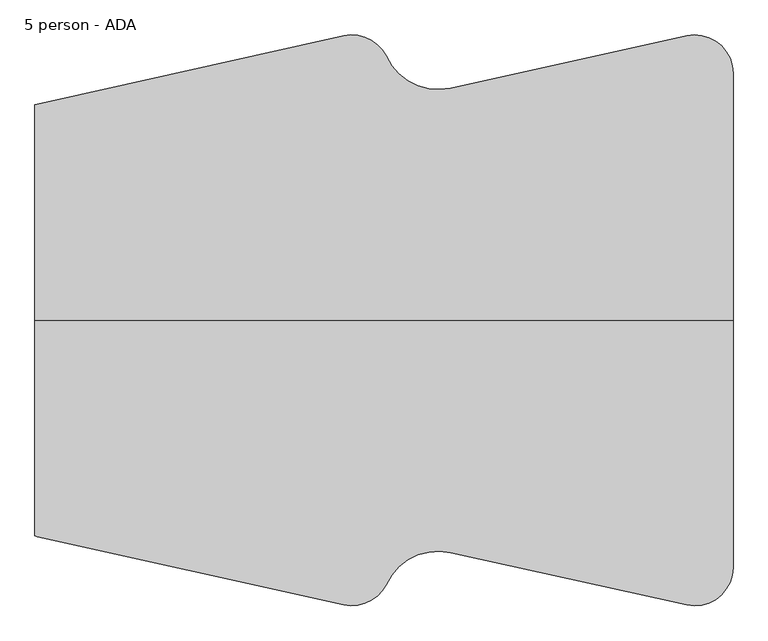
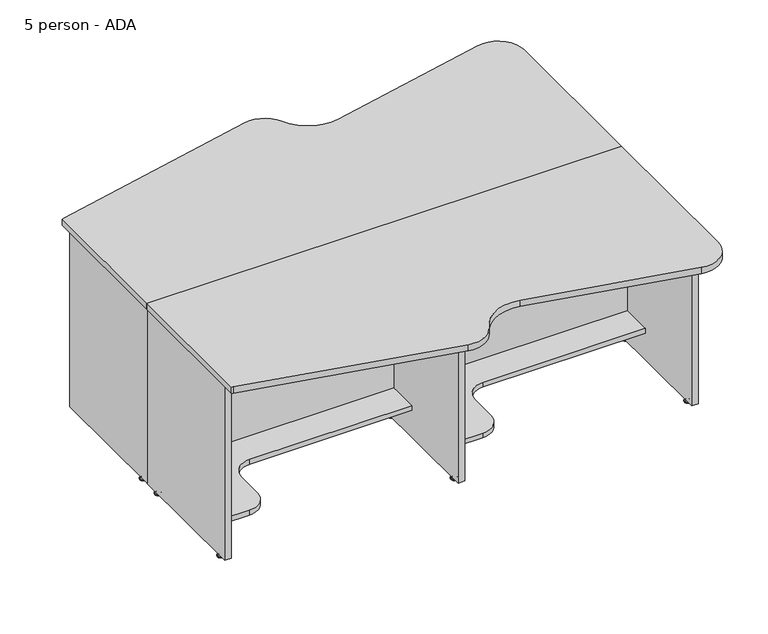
"""IFC4 building model written with IfcOpenShell, lengths in millimetres: furniture geometry, Nova Solutions - Collaboration Table - Keystone_4-5 person : 5 person - ADA."""

from ifc_helpers import new_model, si_unit, point, frame, frame_2d, origin, place, context, project, spatial, polyline, circle_curve, ellipse_curve, trimmed, segment, composite_curve, outline, extrude, source, transform, mapped, element, save
from ifc_brep_helpers import plane_surface, cylinder_surface, revolved_surface, advanced_brep


def furniture_5_person_ada_08185c7c(model_context):
    return source(origin(), model_context, "Body", "SolidModel", [
        advanced_brep(
        [(-922.3776506, 50.3590625, 11.1125), (-909.0223494, 50.3590625, 11.1125), (-915.7, 50.3590625, 11.1125), (-922.3776506, 50.3590625, 9.525), (-909.0223494, 50.3590625, 9.525), (-927.5855135, 50.3590625, 4.7748687), (-903.8144865, 50.3590625, 4.7748687), (-928.4466506, 50.3590625, 3.989419), (-902.9533494, 50.3590625, 3.989419), (-928.4466506, 50.3590625, 3.175), (-902.9533494, 50.3590625, 3.175), (-927.5959119, 50.3590625, 0.0), (-903.8040881, 50.3590625, 0.0), (-915.7, 50.3590625, 0.0)],
        [
            (0, 1, circle_curve(frame((-915.7, 50.3590625, 11.1125), z_axis=(0.0, 0.0, 1.0), x_axis=(1.0, 0.0, 0.0)), 6.6776506)),
            (1, 2),
            (2, 0),
            (1, 0, circle_curve(frame((-915.7, 50.3590625, 11.1125), z_axis=(0.0, 0.0, 1.0), x_axis=(1.0, 0.0, 0.0)), 6.6776506)),
            (3, 4, circle_curve(frame((-915.7, 50.3590625, 9.525), z_axis=(0.0, 0.0, 1.0), x_axis=(1.0, 0.0, 0.0)), 6.6776506)),
            (4, 1),
            (0, 3),
            (4, 3, circle_curve(frame((-915.7, 50.3590625, 9.525), z_axis=(0.0, 0.0, 1.0), x_axis=(1.0, 0.0, 0.0)), 6.6776506)),
            (5, 6, circle_curve(frame((-915.7, 50.3590625, 4.7748687), z_axis=(0.0, 0.0, 1.0), x_axis=(1.0, 0.0, 0.0)), 11.8855135)),
            (6, 4, circle_curve(frame((-902.7679373, 50.3590625, 11.1521822), z_axis=(0.0, 1.0, 0.0), x_axis=(-1.0, 0.0, 0.0)), 6.462615)),
            (3, 5, circle_curve(frame((-928.6320627, 50.3590625, 11.1521822), z_axis=(0.0, 1.0, 0.0), x_axis=(1.0, 0.0, 0.0)), 6.462615)),
            (6, 5, circle_curve(frame((-915.7, 50.3590625, 4.7748687), z_axis=(0.0, 0.0, 1.0), x_axis=(1.0, 0.0, 0.0)), 11.8855135)),
            (7, 8, circle_curve(frame((-915.7, 50.3590625, 3.989419), z_axis=(0.0, 0.0, 1.0), x_axis=(1.0, 0.0, 0.0)), 12.7466506)),
            (8, 6, circle_curve(frame((-903.9875368, 50.3590625, 3.7203591), z_axis=(0.0, -1.0, 0.0), x_axis=(-1.0, 0.0, 0.0)), 1.0686145)),
            (5, 7, circle_curve(frame((-927.4124632, 50.3590625, 3.7203591), z_axis=(0.0, -1.0, 0.0), x_axis=(1.0, 0.0, 0.0)), 1.0686145)),
            (8, 7, circle_curve(frame((-915.7, 50.3590625, 3.989419), z_axis=(0.0, 0.0, 1.0), x_axis=(1.0, 0.0, 0.0)), 12.7466506)),
            (9, 10, circle_curve(frame((-915.7, 50.3590625, 3.175), z_axis=(0.0, 0.0, 1.0), x_axis=(1.0, 0.0, 0.0)), 12.7466506)),
            (10, 8),
            (7, 9),
            (10, 9, circle_curve(frame((-915.7, 50.3590625, 3.175), z_axis=(0.0, 0.0, 1.0), x_axis=(1.0, 0.0, 0.0)), 12.7466506)),
            (11, 12, circle_curve(frame((-915.7, 50.3590625, 0.0), z_axis=(0.0, 0.0, 1.0), x_axis=(1.0, 0.0, 0.0)), 11.8959119)),
            (12, 10),
            (9, 11),
            (12, 11, circle_curve(frame((-915.7, 50.3590625, 0.0), z_axis=(0.0, 0.0, 1.0), x_axis=(1.0, 0.0, 0.0)), 11.8959119)),
            (13, 12),
            (11, 13),
        ],
        [
            plane_surface(frame((-915.7, 50.3590625, 11.1125), z_axis=(0.0, 0.0, 1.0), x_axis=(1.0, 0.0, 0.0))),
            cylinder_surface(frame((-915.7, 50.3590625, 43.2095994), z_axis=(0.0, 0.0, -1.0), x_axis=(1.0, 0.0, 0.0)), 6.6776506),
            revolved_surface(trimmed(ellipse_curve(frame((-902.7679373, 50.3590625, 11.1521822), z_axis=(0.0, -1.0, 0.0), x_axis=(-1.0, 0.0, 0.0)), 6.462615, 6.462615), [point((-909.0223494, 50.3590625, 9.525))], [point((-903.8144865, 50.3590625, 4.7748687))], True, "CARTESIAN"), (-915.7, 50.3590625, 43.2095994), (0.0, 0.0, -1.0)),
            revolved_surface(trimmed(ellipse_curve(frame((-903.9875368, 50.3590625, 3.7203591), z_axis=(0.0, 1.0, 0.0), x_axis=(-1.0, 0.0, 0.0)), 1.0686145, 1.0686145), [point((-903.8144865, 50.3590625, 4.7748687))], [point((-902.9533494, 50.3590625, 3.989419))], True, "CARTESIAN"), (-915.7, 50.3590625, 43.2095994), (0.0, 0.0, -1.0)),
            cylinder_surface(frame((-915.7, 50.3590625, 43.2095994), z_axis=(0.0, 0.0, -1.0), x_axis=(1.0, 0.0, 0.0)), 12.7466506),
            revolved_surface(polyline([(-902.9533494, 50.3590625, 3.175), (-903.8040881, 50.3590625, 0.0)]), (-915.7, 50.3590625, 43.2095994), (0.0, 0.0, -1.0)),
            plane_surface(frame((-915.7, 50.3590625, 0.0), z_axis=(0.0, 0.0, -1.0), x_axis=(1.0, 0.0, 0.0))),
        ],
        [
            (0, [[1, 2, 3]]),
            (0, [[4, -3, -2]]),
            (1, [[5, 6, -1, 7]]),
            (1, [[8, -7, -4, -6]]),
            (2, [[9, 10, -5, 11]]),
            (2, [[12, -11, -8, -10]]),
            (3, [[13, 14, -9, 15]]),
            (3, [[16, -15, -12, -14]]),
            (4, [[17, 18, -13, 19]]),
            (4, [[20, -19, -16, -18]]),
            (5, [[21, 22, -17, 23]]),
            (5, [[24, -23, -20, -22]]),
            (6, [[25, -21, 26]]),
            (6, [[-26, -24, -25]]),
        ],
    ),
        extrude(outline(polyline([(-928.55, 1.345), (-928.55, 523.345), (-902.85, 523.345), (-902.85, 1.345), (-928.55, 1.345)])), frame((0.0, 0.0, 15.6), z_axis=(0.0, 0.0, 1.0), x_axis=(1.0, 0.0, 0.0)), (0.0, 0.0, 1.0), 720.7),
        advanced_brep(
        [(3.8776506, 474.3309375, 11.1125), (-2.8, 474.3309375, 11.1125), (-9.4776506, 474.3309375, 11.1125), (3.8776506, 474.3309375, 9.525), (-9.4776506, 474.3309375, 9.525), (9.0855135, 474.3309375, 4.7748687), (-14.6855135, 474.3309375, 4.7748687), (9.9466506, 474.3309375, 3.989419), (-15.5466506, 474.3309375, 3.989419), (9.9466506, 474.3309375, 3.175), (-15.5466506, 474.3309375, 3.175), (9.0959119, 474.3309375, 0.0), (-14.6959119, 474.3309375, 0.0), (-2.8, 474.3309375, 0.0)],
        [
            (0, 1),
            (1, 2),
            (2, 0, circle_curve(frame((-2.8, 474.3309375, 11.1125), z_axis=(0.0, 0.0, 1.0), x_axis=(-1.0, 0.0, 0.0)), 6.6776506)),
            (0, 2, circle_curve(frame((-2.8, 474.3309375, 11.1125), z_axis=(0.0, 0.0, 1.0), x_axis=(-1.0, 0.0, 0.0)), 6.6776506)),
            (3, 0),
            (2, 4),
            (4, 3, circle_curve(frame((-2.8, 474.3309375, 9.525), z_axis=(0.0, 0.0, 1.0), x_axis=(-1.0, 0.0, 0.0)), 6.6776506)),
            (3, 4, circle_curve(frame((-2.8, 474.3309375, 9.525), z_axis=(0.0, 0.0, 1.0), x_axis=(-1.0, 0.0, 0.0)), 6.6776506)),
            (5, 3, circle_curve(frame((10.1320627, 474.3309375, 11.1521822), z_axis=(0.0, 1.0, 0.0), x_axis=(-1.0, 0.0, 0.0)), 6.462615)),
            (4, 6, circle_curve(frame((-15.7320627, 474.3309375, 11.1521822), z_axis=(0.0, 1.0, 0.0), x_axis=(1.0, 0.0, 0.0)), 6.462615)),
            (6, 5, circle_curve(frame((-2.8, 474.3309375, 4.7748687), z_axis=(0.0, 0.0, 1.0), x_axis=(-1.0, 0.0, 0.0)), 11.8855135)),
            (5, 6, circle_curve(frame((-2.8, 474.3309375, 4.7748687), z_axis=(0.0, 0.0, 1.0), x_axis=(-1.0, 0.0, 0.0)), 11.8855135)),
            (7, 5, circle_curve(frame((8.9124632, 474.3309375, 3.7203591), z_axis=(0.0, -1.0, 0.0), x_axis=(-1.0, 0.0, 0.0)), 1.0686145)),
            (6, 8, circle_curve(frame((-14.5124632, 474.3309375, 3.7203591), z_axis=(0.0, -1.0, 0.0), x_axis=(1.0, 0.0, 0.0)), 1.0686145)),
            (8, 7, circle_curve(frame((-2.8, 474.3309375, 3.989419), z_axis=(0.0, 0.0, 1.0), x_axis=(-1.0, 0.0, 0.0)), 12.7466506)),
            (7, 8, circle_curve(frame((-2.8, 474.3309375, 3.989419), z_axis=(0.0, 0.0, 1.0), x_axis=(-1.0, 0.0, 0.0)), 12.7466506)),
            (9, 7),
            (8, 10),
            (10, 9, circle_curve(frame((-2.8, 474.3309375, 3.175), z_axis=(0.0, 0.0, 1.0), x_axis=(-1.0, 0.0, 0.0)), 12.7466506)),
            (9, 10, circle_curve(frame((-2.8, 474.3309375, 3.175), z_axis=(0.0, 0.0, 1.0), x_axis=(-1.0, 0.0, 0.0)), 12.7466506)),
            (11, 9),
            (10, 12),
            (12, 11, circle_curve(frame((-2.8, 474.3309375, 0.0), z_axis=(0.0, 0.0, 1.0), x_axis=(-1.0, 0.0, 0.0)), 11.8959119)),
            (11, 12, circle_curve(frame((-2.8, 474.3309375, 0.0), z_axis=(0.0, 0.0, 1.0), x_axis=(-1.0, 0.0, 0.0)), 11.8959119)),
            (13, 11),
            (12, 13),
        ],
        [
            plane_surface(frame((-2.8, 474.3309375, 11.1125), z_axis=(0.0, 0.0, 1.0), x_axis=(-1.0, 0.0, 0.0))),
            cylinder_surface(frame((-2.8, 474.3309375, 43.2095994), z_axis=(0.0, 0.0, -1.0), x_axis=(-1.0, 0.0, 0.0)), 6.6776506),
            revolved_surface(trimmed(ellipse_curve(frame((-15.7320627, 474.3309375, 11.1521822), z_axis=(0.0, 1.0, 0.0), x_axis=(1.0, 0.0, 0.0)), 6.462615, 6.462615), [point((-9.4776506, 474.3309375, 9.525))], [point((-14.6855135, 474.3309375, 4.7748687))], True, "CARTESIAN"), (-2.8, 474.3309375, 43.2095994), (0.0, 0.0, -1.0)),
            revolved_surface(trimmed(ellipse_curve(frame((-14.5124632, 474.3309375, 3.7203591), z_axis=(0.0, -1.0, 0.0), x_axis=(1.0, 0.0, 0.0)), 1.0686145, 1.0686145), [point((-14.6855135, 474.3309375, 4.7748687))], [point((-15.5466506, 474.3309375, 3.989419))], True, "CARTESIAN"), (-2.8, 474.3309375, 43.2095994), (0.0, 0.0, -1.0)),
            cylinder_surface(frame((-2.8, 474.3309375, 43.2095994), z_axis=(0.0, 0.0, -1.0), x_axis=(-1.0, 0.0, 0.0)), 12.7466506),
            revolved_surface(polyline([(-15.5466506, 474.3309375, 3.175), (-14.6959119, 474.3309375, 0.0)]), (-2.8, 474.3309375, 43.2095994), (0.0, 0.0, -1.0)),
            plane_surface(frame((-2.8, 474.3309375, 0.0), z_axis=(0.0, 0.0, -1.0), x_axis=(-1.0, 0.0, 0.0))),
        ],
        [
            (0, [[1, 2, 3]]),
            (0, [[-2, -1, 4]]),
            (1, [[5, -3, 6, 7]]),
            (1, [[-6, -4, -5, 8]]),
            (2, [[9, -7, 10, 11]]),
            (2, [[-10, -8, -9, 12]]),
            (3, [[13, -11, 14, 15]]),
            (3, [[-14, -12, -13, 16]]),
            (4, [[17, -15, 18, 19]]),
            (4, [[-18, -16, -17, 20]]),
            (5, [[21, -19, 22, 23]]),
            (5, [[-22, -20, -21, 24]]),
            (6, [[25, -23, 26]]),
            (6, [[-26, -24, -25]]),
        ],
    ),
        advanced_brep(
        [(3.8776506, 50.3590625, 11.1125), (-2.8, 50.3590625, 11.1125), (-9.4776506, 50.3590625, 11.1125), (3.8776506, 50.3590625, 9.525), (-9.4776506, 50.3590625, 9.525), (9.0855135, 50.3590625, 4.7748687), (-14.6855135, 50.3590625, 4.7748687), (9.9466506, 50.3590625, 3.989419), (-15.5466506, 50.3590625, 3.989419), (9.9466506, 50.3590625, 3.175), (-15.5466506, 50.3590625, 3.175), (9.0959119, 50.3590625, 0.0), (-14.6959119, 50.3590625, 0.0), (-2.8, 50.3590625, 0.0)],
        [
            (0, 1),
            (1, 2),
            (2, 0, circle_curve(frame((-2.8, 50.3590625, 11.1125), z_axis=(0.0, 0.0, 1.0), x_axis=(-1.0, 0.0, 0.0)), 6.6776506)),
            (0, 2, circle_curve(frame((-2.8, 50.3590625, 11.1125), z_axis=(0.0, 0.0, 1.0), x_axis=(-1.0, 0.0, 0.0)), 6.6776506)),
            (3, 0),
            (2, 4),
            (4, 3, circle_curve(frame((-2.8, 50.3590625, 9.525), z_axis=(0.0, 0.0, 1.0), x_axis=(-1.0, 0.0, 0.0)), 6.6776506)),
            (3, 4, circle_curve(frame((-2.8, 50.3590625, 9.525), z_axis=(0.0, 0.0, 1.0), x_axis=(-1.0, 0.0, 0.0)), 6.6776506)),
            (5, 3, circle_curve(frame((10.1320627, 50.3590625, 11.1521822), z_axis=(0.0, 1.0, 0.0), x_axis=(-1.0, 0.0, 0.0)), 6.462615)),
            (4, 6, circle_curve(frame((-15.7320627, 50.3590625, 11.1521822), z_axis=(0.0, 1.0, 0.0), x_axis=(1.0, 0.0, 0.0)), 6.462615)),
            (6, 5, circle_curve(frame((-2.8, 50.3590625, 4.7748687), z_axis=(0.0, 0.0, 1.0), x_axis=(-1.0, 0.0, 0.0)), 11.8855135)),
            (5, 6, circle_curve(frame((-2.8, 50.3590625, 4.7748687), z_axis=(0.0, 0.0, 1.0), x_axis=(-1.0, 0.0, 0.0)), 11.8855135)),
            (7, 5, circle_curve(frame((8.9124632, 50.3590625, 3.7203591), z_axis=(0.0, -1.0, 0.0), x_axis=(-1.0, 0.0, 0.0)), 1.0686145)),
            (6, 8, circle_curve(frame((-14.5124632, 50.3590625, 3.7203591), z_axis=(0.0, -1.0, 0.0), x_axis=(1.0, 0.0, 0.0)), 1.0686145)),
            (8, 7, circle_curve(frame((-2.8, 50.3590625, 3.989419), z_axis=(0.0, 0.0, 1.0), x_axis=(-1.0, 0.0, 0.0)), 12.7466506)),
            (7, 8, circle_curve(frame((-2.8, 50.3590625, 3.989419), z_axis=(0.0, 0.0, 1.0), x_axis=(-1.0, 0.0, 0.0)), 12.7466506)),
            (9, 7),
            (8, 10),
            (10, 9, circle_curve(frame((-2.8, 50.3590625, 3.175), z_axis=(0.0, 0.0, 1.0), x_axis=(-1.0, 0.0, 0.0)), 12.7466506)),
            (9, 10, circle_curve(frame((-2.8, 50.3590625, 3.175), z_axis=(0.0, 0.0, 1.0), x_axis=(-1.0, 0.0, 0.0)), 12.7466506)),
            (11, 9),
            (10, 12),
            (12, 11, circle_curve(frame((-2.8, 50.3590625, 0.0), z_axis=(0.0, 0.0, 1.0), x_axis=(-1.0, 0.0, 0.0)), 11.8959119)),
            (11, 12, circle_curve(frame((-2.8, 50.3590625, 0.0), z_axis=(0.0, 0.0, 1.0), x_axis=(-1.0, 0.0, 0.0)), 11.8959119)),
            (13, 11),
            (12, 13),
        ],
        [
            plane_surface(frame((-2.8, 50.3590625, 11.1125), z_axis=(0.0, 0.0, 1.0), x_axis=(-1.0, 0.0, 0.0))),
            cylinder_surface(frame((-2.8, 50.3590625, 43.2095994), z_axis=(0.0, 0.0, -1.0), x_axis=(-1.0, 0.0, 0.0)), 6.6776506),
            revolved_surface(trimmed(ellipse_curve(frame((-15.7320627, 50.3590625, 11.1521822), z_axis=(0.0, 1.0, 0.0), x_axis=(1.0, 0.0, 0.0)), 6.462615, 6.462615), [point((-9.4776506, 50.3590625, 9.525))], [point((-14.6855135, 50.3590625, 4.7748687))], True, "CARTESIAN"), (-2.8, 50.3590625, 43.2095994), (0.0, 0.0, -1.0)),
            revolved_surface(trimmed(ellipse_curve(frame((-14.5124632, 50.3590625, 3.7203591), z_axis=(0.0, -1.0, 0.0), x_axis=(1.0, 0.0, 0.0)), 1.0686145, 1.0686145), [point((-14.6855135, 50.3590625, 4.7748687))], [point((-15.5466506, 50.3590625, 3.989419))], True, "CARTESIAN"), (-2.8, 50.3590625, 43.2095994), (0.0, 0.0, -1.0)),
            cylinder_surface(frame((-2.8, 50.3590625, 43.2095994), z_axis=(0.0, 0.0, -1.0), x_axis=(-1.0, 0.0, 0.0)), 12.7466506),
            revolved_surface(polyline([(-15.5466506, 50.3590625, 3.175), (-14.6959119, 50.3590625, 0.0)]), (-2.8, 50.3590625, 43.2095994), (0.0, 0.0, -1.0)),
            plane_surface(frame((-2.8, 50.3590625, 0.0), z_axis=(0.0, 0.0, -1.0), x_axis=(-1.0, 0.0, 0.0))),
        ],
        [
            (0, [[1, 2, 3]]),
            (0, [[-2, -1, 4]]),
            (1, [[5, -3, 6, 7]]),
            (1, [[-6, -4, -5, 8]]),
            (2, [[9, -7, 10, 11]]),
            (2, [[-10, -8, -9, 12]]),
            (3, [[13, -11, 14, 15]]),
            (3, [[-14, -12, -13, 16]]),
            (4, [[17, -15, 18, 19]]),
            (4, [[-18, -16, -17, 20]]),
            (5, [[21, -19, 22, 23]]),
            (5, [[-22, -20, -21, 24]]),
            (6, [[25, -23, 26]]),
            (6, [[-26, -24, -25]]),
        ],
    ),
        extrude(outline(polyline([(10.05, 1.345), (-15.65, 1.345), (-15.65, 523.345), (10.05, 523.345), (10.05, 1.345)])), frame((0.0, 0.0, 15.6), z_axis=(0.0, 0.0, 1.0), x_axis=(1.0, 0.0, 0.0)), (0.0, 0.0, 1.0), 720.7),
        extrude(outline(composite_curve([segment(polyline([(924.25, 0.0), (-929.988, 0.0), (-929.988, 572.7433508)]), True, "CONTINUOUS"), segment(trimmed(circle_curve(frame_2d((-904.6251452, 474.4632633)), 101.5), [point((-929.988, 572.7433508))], [point((-923.5758236, 574.1784667))], False, "CARTESIAN"), True, "CONTINUOUS"), segment(polyline([(-923.5758236, 574.1784667), (-110.0827884, 755.6229945)]), True, "CONTINUOUS"), segment(trimmed(circle_curve(frame_2d((-87.9867994, 656.5572725)), 101.5), [point((-110.0827884, 755.6229945))], [point((2.6149334, 702.3128843))], False, "CARTESIAN"), True, "CONTINUOUS"), segment(trimmed(circle_curve(frame_2d((141.2930311, 765.5121345)), 152.4), [point((2.6149334, 702.3128843))], [point((174.2784283, 616.724623))], True, "CARTESIAN"), True, "CONTINUOUS"), segment(polyline([(174.2784283, 616.724623), (800.7813792, 755.6169834)]), True, "CONTINUOUS"), segment(trimmed(circle_curve(frame_2d((822.75, 656.5229386)), 101.5), [point((800.7813792, 755.6169834))], [point((924.25, 656.5229386))], False, "CARTESIAN"), True, "CONTINUOUS"), segment(polyline([(924.25, 656.5229386), (924.25, 0.0)]), True, "CONTINUOUS")], self_intersect=False)), frame((0.0, 0.0, 736.3), z_axis=(0.0, 0.0, 1.0), x_axis=(1.0, 0.0, 0.0)), (0.0, 0.0, 1.0), 25.7),
        extrude(outline(polyline([(736.3, 897.15), (736.3, 10.05), (507.4, 10.05), (507.4, 181.05), (145.5, 181.05), (145.5, 897.15), (736.3, 897.15)])), frame((0.0, -88.545, 0.0), z_axis=(0.0, 1.0, 0.0), x_axis=(0.0, 0.0, 1.0)), (0.0, 0.0, 1.0), 19.2),
        extrude(outline(composite_curve([segment(polyline([(897.15, -14.045), (897.15, -210.345), (264.05, -210.345)]), True, "CONTINUOUS"), segment(trimmed(circle_curve(frame_2d((264.05, -286.545)), 76.2), [point((264.05, -210.345))], [point((187.85, -286.545))], True, "CARTESIAN"), True, "CONTINUOUS"), segment(polyline([(187.85, -286.545), (187.85, -393.7075)]), True, "CONTINUOUS"), segment(trimmed(circle_curve(frame_2d((111.65, -393.7075)), 76.2), [point((187.85, -393.7075))], [point((111.65, -469.9075))], False, "CARTESIAN"), True, "CONTINUOUS"), segment(polyline([(111.65, -469.9075), (10.05, -469.9075), (10.05, -14.045), (897.15, -14.045)]), True, "CONTINUOUS")], self_intersect=False)), frame((0.0, 0.0, 126.3), z_axis=(0.0, 0.0, 1.0), x_axis=(1.0, 0.0, 0.0)), (0.0, 0.0, 1.0), 19.2),
        advanced_brep(
        [(916.6776506, -474.3309375, 11.1125), (903.3223494, -474.3309375, 11.1125), (910.0, -474.3309375, 11.1125), (916.6776506, -474.3309375, 9.525), (903.3223494, -474.3309375, 9.525), (921.8855135, -474.3309375, 4.7748687), (898.1144865, -474.3309375, 4.7748687), (922.7466506, -474.3309375, 3.989419), (897.2533494, -474.3309375, 3.989419), (922.7466506, -474.3309375, 3.175), (897.2533494, -474.3309375, 3.175), (921.8959119, -474.3309375, 0.0), (898.1040881, -474.3309375, 0.0), (910.0, -474.3309375, 0.0)],
        [
            (0, 1, circle_curve(frame((910.0, -474.3309375, 11.1125), z_axis=(0.0, 0.0, 1.0), x_axis=(-1.0, 0.0, 0.0)), 6.6776506)),
            (1, 2),
            (2, 0),
            (1, 0, circle_curve(frame((910.0, -474.3309375, 11.1125), z_axis=(0.0, 0.0, 1.0), x_axis=(-1.0, 0.0, 0.0)), 6.6776506)),
            (3, 4, circle_curve(frame((910.0, -474.3309375, 9.525), z_axis=(0.0, 0.0, 1.0), x_axis=(-1.0, 0.0, 0.0)), 6.6776506)),
            (4, 1),
            (0, 3),
            (4, 3, circle_curve(frame((910.0, -474.3309375, 9.525), z_axis=(0.0, 0.0, 1.0), x_axis=(-1.0, 0.0, 0.0)), 6.6776506)),
            (5, 6, circle_curve(frame((910.0, -474.3309375, 4.7748687), z_axis=(0.0, 0.0, 1.0), x_axis=(-1.0, 0.0, 0.0)), 11.8855135)),
            (6, 4, circle_curve(frame((897.0679373, -474.3309375, 11.1521822), z_axis=(0.0, -1.0, 0.0), x_axis=(1.0, 0.0, 0.0)), 6.462615)),
            (3, 5, circle_curve(frame((922.9320627, -474.3309375, 11.1521822), z_axis=(0.0, -1.0, 0.0), x_axis=(-1.0, 0.0, 0.0)), 6.462615)),
            (6, 5, circle_curve(frame((910.0, -474.3309375, 4.7748687), z_axis=(0.0, 0.0, 1.0), x_axis=(-1.0, 0.0, 0.0)), 11.8855135)),
            (7, 8, circle_curve(frame((910.0, -474.3309375, 3.989419), z_axis=(0.0, 0.0, 1.0), x_axis=(-1.0, 0.0, 0.0)), 12.7466506)),
            (8, 6, circle_curve(frame((898.2875368, -474.3309375, 3.7203591), z_axis=(0.0, 1.0, 0.0), x_axis=(1.0, 0.0, 0.0)), 1.0686145)),
            (5, 7, circle_curve(frame((921.7124632, -474.3309375, 3.7203591), z_axis=(0.0, 1.0, 0.0), x_axis=(-1.0, 0.0, 0.0)), 1.0686145)),
            (8, 7, circle_curve(frame((910.0, -474.3309375, 3.989419), z_axis=(0.0, 0.0, 1.0), x_axis=(-1.0, 0.0, 0.0)), 12.7466506)),
            (9, 10, circle_curve(frame((910.0, -474.3309375, 3.175), z_axis=(0.0, 0.0, 1.0), x_axis=(-1.0, 0.0, 0.0)), 12.7466506)),
            (10, 8),
            (7, 9),
            (10, 9, circle_curve(frame((910.0, -474.3309375, 3.175), z_axis=(0.0, 0.0, 1.0), x_axis=(-1.0, 0.0, 0.0)), 12.7466506)),
            (11, 12, circle_curve(frame((910.0, -474.3309375, 0.0), z_axis=(0.0, 0.0, 1.0), x_axis=(-1.0, 0.0, 0.0)), 11.8959119)),
            (12, 10),
            (9, 11),
            (12, 11, circle_curve(frame((910.0, -474.3309375, 0.0), z_axis=(0.0, 0.0, 1.0), x_axis=(-1.0, 0.0, 0.0)), 11.8959119)),
            (13, 12),
            (11, 13),
        ],
        [
            plane_surface(frame((910.0, -474.3309375, 11.1125), z_axis=(0.0, 0.0, 1.0), x_axis=(-1.0, 0.0, 0.0))),
            cylinder_surface(frame((910.0, -474.3309375, 43.2095994), z_axis=(0.0, 0.0, -1.0), x_axis=(-1.0, 0.0, 0.0)), 6.6776506),
            revolved_surface(trimmed(ellipse_curve(frame((897.0679373, -474.3309375, 11.1521822), z_axis=(0.0, 1.0, 0.0), x_axis=(1.0, 0.0, 0.0)), 6.462615, 6.462615), [point((903.3223494, -474.3309375, 9.525))], [point((898.1144865, -474.3309375, 4.7748687))], True, "CARTESIAN"), (910.0, -474.3309375, 43.2095994), (0.0, 0.0, -1.0)),
            revolved_surface(trimmed(ellipse_curve(frame((898.2875368, -474.3309375, 3.7203591), z_axis=(0.0, -1.0, 0.0), x_axis=(1.0, 0.0, 0.0)), 1.0686145, 1.0686145), [point((898.1144865, -474.3309375, 4.7748687))], [point((897.2533494, -474.3309375, 3.989419))], True, "CARTESIAN"), (910.0, -474.3309375, 43.2095994), (0.0, 0.0, -1.0)),
            cylinder_surface(frame((910.0, -474.3309375, 43.2095994), z_axis=(0.0, 0.0, -1.0), x_axis=(-1.0, 0.0, 0.0)), 12.7466506),
            revolved_surface(polyline([(897.2533494, -474.3309375, 3.175), (898.1040881, -474.3309375, 0.0)]), (910.0, -474.3309375, 43.2095994), (0.0, 0.0, -1.0)),
            plane_surface(frame((910.0, -474.3309375, 0.0), z_axis=(0.0, 0.0, -1.0), x_axis=(-1.0, 0.0, 0.0))),
        ],
        [
            (0, [[1, 2, 3]]),
            (0, [[4, -3, -2]]),
            (1, [[5, 6, -1, 7]]),
            (1, [[8, -7, -4, -6]]),
            (2, [[9, 10, -5, 11]]),
            (2, [[12, -11, -8, -10]]),
            (3, [[13, 14, -9, 15]]),
            (3, [[16, -15, -12, -14]]),
            (4, [[17, 18, -13, 19]]),
            (4, [[20, -19, -16, -18]]),
            (5, [[21, 22, -17, 23]]),
            (5, [[24, -23, -20, -22]]),
            (6, [[25, -21, 26]]),
            (6, [[-26, -24, -25]]),
        ],
    ),
        advanced_brep(
        [(916.6776506, -50.3590625, 11.1125), (903.3223494, -50.3590625, 11.1125), (910.0, -50.3590625, 11.1125), (916.6776506, -50.3590625, 9.525), (903.3223494, -50.3590625, 9.525), (921.8855135, -50.3590625, 4.7748687), (898.1144865, -50.3590625, 4.7748687), (922.7466506, -50.3590625, 3.989419), (897.2533494, -50.3590625, 3.989419), (922.7466506, -50.3590625, 3.175), (897.2533494, -50.3590625, 3.175), (921.8959119, -50.3590625, 0.0), (898.1040881, -50.3590625, 0.0), (910.0, -50.3590625, 0.0)],
        [
            (0, 1, circle_curve(frame((910.0, -50.3590625, 11.1125), z_axis=(0.0, 0.0, 1.0), x_axis=(-1.0, 0.0, 0.0)), 6.6776506)),
            (1, 2),
            (2, 0),
            (1, 0, circle_curve(frame((910.0, -50.3590625, 11.1125), z_axis=(0.0, 0.0, 1.0), x_axis=(-1.0, 0.0, 0.0)), 6.6776506)),
            (3, 4, circle_curve(frame((910.0, -50.3590625, 9.525), z_axis=(0.0, 0.0, 1.0), x_axis=(-1.0, 0.0, 0.0)), 6.6776506)),
            (4, 1),
            (0, 3),
            (4, 3, circle_curve(frame((910.0, -50.3590625, 9.525), z_axis=(0.0, 0.0, 1.0), x_axis=(-1.0, 0.0, 0.0)), 6.6776506)),
            (5, 6, circle_curve(frame((910.0, -50.3590625, 4.7748687), z_axis=(0.0, 0.0, 1.0), x_axis=(-1.0, 0.0, 0.0)), 11.8855135)),
            (6, 4, circle_curve(frame((897.0679373, -50.3590625, 11.1521822), z_axis=(0.0, -1.0, 0.0), x_axis=(1.0, 0.0, 0.0)), 6.462615)),
            (3, 5, circle_curve(frame((922.9320627, -50.3590625, 11.1521822), z_axis=(0.0, -1.0, 0.0), x_axis=(-1.0, 0.0, 0.0)), 6.462615)),
            (6, 5, circle_curve(frame((910.0, -50.3590625, 4.7748687), z_axis=(0.0, 0.0, 1.0), x_axis=(-1.0, 0.0, 0.0)), 11.8855135)),
            (7, 8, circle_curve(frame((910.0, -50.3590625, 3.989419), z_axis=(0.0, 0.0, 1.0), x_axis=(-1.0, 0.0, 0.0)), 12.7466506)),
            (8, 6, circle_curve(frame((898.2875368, -50.3590625, 3.7203591), z_axis=(0.0, 1.0, 0.0), x_axis=(1.0, 0.0, 0.0)), 1.0686145)),
            (5, 7, circle_curve(frame((921.7124632, -50.3590625, 3.7203591), z_axis=(0.0, 1.0, 0.0), x_axis=(-1.0, 0.0, 0.0)), 1.0686145)),
            (8, 7, circle_curve(frame((910.0, -50.3590625, 3.989419), z_axis=(0.0, 0.0, 1.0), x_axis=(-1.0, 0.0, 0.0)), 12.7466506)),
            (9, 10, circle_curve(frame((910.0, -50.3590625, 3.175), z_axis=(0.0, 0.0, 1.0), x_axis=(-1.0, 0.0, 0.0)), 12.7466506)),
            (10, 8),
            (7, 9),
            (10, 9, circle_curve(frame((910.0, -50.3590625, 3.175), z_axis=(0.0, 0.0, 1.0), x_axis=(-1.0, 0.0, 0.0)), 12.7466506)),
            (11, 12, circle_curve(frame((910.0, -50.3590625, 0.0), z_axis=(0.0, 0.0, 1.0), x_axis=(-1.0, 0.0, 0.0)), 11.8959119)),
            (12, 10),
            (9, 11),
            (12, 11, circle_curve(frame((910.0, -50.3590625, 0.0), z_axis=(0.0, 0.0, 1.0), x_axis=(-1.0, 0.0, 0.0)), 11.8959119)),
            (13, 12),
            (11, 13),
        ],
        [
            plane_surface(frame((910.0, -50.3590625, 11.1125), z_axis=(0.0, 0.0, 1.0), x_axis=(-1.0, 0.0, 0.0))),
            cylinder_surface(frame((910.0, -50.3590625, 43.2095994), z_axis=(0.0, 0.0, -1.0), x_axis=(-1.0, 0.0, 0.0)), 6.6776506),
            revolved_surface(trimmed(ellipse_curve(frame((897.0679373, -50.3590625, 11.1521822), z_axis=(0.0, 1.0, 0.0), x_axis=(1.0, 0.0, 0.0)), 6.462615, 6.462615), [point((903.3223494, -50.3590625, 9.525))], [point((898.1144865, -50.3590625, 4.7748687))], True, "CARTESIAN"), (910.0, -50.3590625, 43.2095994), (0.0, 0.0, -1.0)),
            revolved_surface(trimmed(ellipse_curve(frame((898.2875368, -50.3590625, 3.7203591), z_axis=(0.0, -1.0, 0.0), x_axis=(1.0, 0.0, 0.0)), 1.0686145, 1.0686145), [point((898.1144865, -50.3590625, 4.7748687))], [point((897.2533494, -50.3590625, 3.989419))], True, "CARTESIAN"), (910.0, -50.3590625, 43.2095994), (0.0, 0.0, -1.0)),
            cylinder_surface(frame((910.0, -50.3590625, 43.2095994), z_axis=(0.0, 0.0, -1.0), x_axis=(-1.0, 0.0, 0.0)), 12.7466506),
            revolved_surface(polyline([(897.2533494, -50.3590625, 3.175), (898.1040881, -50.3590625, 0.0)]), (910.0, -50.3590625, 43.2095994), (0.0, 0.0, -1.0)),
            plane_surface(frame((910.0, -50.3590625, 0.0), z_axis=(0.0, 0.0, -1.0), x_axis=(-1.0, 0.0, 0.0))),
        ],
        [
            (0, [[1, 2, 3]]),
            (0, [[4, -3, -2]]),
            (1, [[5, 6, -1, 7]]),
            (1, [[8, -7, -4, -6]]),
            (2, [[9, 10, -5, 11]]),
            (2, [[12, -11, -8, -10]]),
            (3, [[13, 14, -9, 15]]),
            (3, [[16, -15, -12, -14]]),
            (4, [[17, 18, -13, 19]]),
            (4, [[20, -19, -16, -18]]),
            (5, [[21, 22, -17, 23]]),
            (5, [[24, -23, -20, -22]]),
            (6, [[25, -21, 26]]),
            (6, [[-26, -24, -25]]),
        ],
    ),
        extrude(outline(polyline([(922.85, -1.345), (922.85, -523.345), (897.15, -523.345), (897.15, -1.345), (922.85, -1.345)])), frame((0.0, 0.0, 15.6), z_axis=(0.0, 0.0, 1.0), x_axis=(1.0, 0.0, 0.0)), (0.0, 0.0, 1.0), 720.7),
        extrude(outline(polyline([(145.5, -15.65), (736.3, -15.65), (736.3, -902.85), (507.4, -902.85), (507.4, -731.85), (145.5, -731.85), (145.5, -15.65)])), frame((0.0, -88.545, 0.0), z_axis=(0.0, 1.0, 0.0), x_axis=(0.0, 0.0, 1.0)), (0.0, 0.0, 1.0), 19.2),
        extrude(outline(composite_curve([segment(polyline([(-902.85, -469.9075), (-902.85, -14.045), (-15.65, -14.045), (-15.65, -210.345), (-648.85, -210.345)]), True, "CONTINUOUS"), segment(trimmed(circle_curve(frame_2d((-648.85, -286.545)), 76.2), [point((-648.85, -210.345))], [point((-725.05, -286.545))], True, "CARTESIAN"), True, "CONTINUOUS"), segment(polyline([(-725.05, -286.545), (-725.05, -393.7075)]), True, "CONTINUOUS"), segment(trimmed(circle_curve(frame_2d((-801.25, -393.7075)), 76.2), [point((-725.05, -393.7075))], [point((-801.25, -469.9075))], False, "CARTESIAN"), True, "CONTINUOUS"), segment(polyline([(-801.25, -469.9075), (-902.85, -469.9075)]), True, "CONTINUOUS")], self_intersect=False)), frame((0.0, 0.0, 126.3), z_axis=(0.0, 0.0, 1.0), x_axis=(1.0, 0.0, 0.0)), (0.0, 0.0, 1.0), 19.2),
        advanced_brep(
        [(-922.3776506, -474.3309375, 11.1125), (-915.7, -474.3309375, 11.1125), (-909.0223494, -474.3309375, 11.1125), (-922.3776506, -474.3309375, 9.525), (-909.0223494, -474.3309375, 9.525), (-927.5855135, -474.3309375, 4.7748687), (-903.8144865, -474.3309375, 4.7748687), (-928.4466506, -474.3309375, 3.989419), (-902.9533494, -474.3309375, 3.989419), (-928.4466506, -474.3309375, 3.175), (-902.9533494, -474.3309375, 3.175), (-927.5959119, -474.3309375, 0.0), (-903.8040881, -474.3309375, 0.0), (-915.7, -474.3309375, 0.0)],
        [
            (0, 1),
            (1, 2),
            (2, 0, circle_curve(frame((-915.7, -474.3309375, 11.1125), z_axis=(0.0, 0.0, 1.0), x_axis=(1.0, 0.0, 0.0)), 6.6776506)),
            (0, 2, circle_curve(frame((-915.7, -474.3309375, 11.1125), z_axis=(0.0, 0.0, 1.0), x_axis=(1.0, 0.0, 0.0)), 6.6776506)),
            (3, 0),
            (2, 4),
            (4, 3, circle_curve(frame((-915.7, -474.3309375, 9.525), z_axis=(0.0, 0.0, 1.0), x_axis=(1.0, 0.0, 0.0)), 6.6776506)),
            (3, 4, circle_curve(frame((-915.7, -474.3309375, 9.525), z_axis=(0.0, 0.0, 1.0), x_axis=(1.0, 0.0, 0.0)), 6.6776506)),
            (5, 3, circle_curve(frame((-928.6320627, -474.3309375, 11.1521822), z_axis=(0.0, -1.0, 0.0), x_axis=(1.0, 0.0, 0.0)), 6.462615)),
            (4, 6, circle_curve(frame((-902.7679373, -474.3309375, 11.1521822), z_axis=(0.0, -1.0, 0.0), x_axis=(-1.0, 0.0, 0.0)), 6.462615)),
            (6, 5, circle_curve(frame((-915.7, -474.3309375, 4.7748687), z_axis=(0.0, 0.0, 1.0), x_axis=(1.0, 0.0, 0.0)), 11.8855135)),
            (5, 6, circle_curve(frame((-915.7, -474.3309375, 4.7748687), z_axis=(0.0, 0.0, 1.0), x_axis=(1.0, 0.0, 0.0)), 11.8855135)),
            (7, 5, circle_curve(frame((-927.4124632, -474.3309375, 3.7203591), z_axis=(0.0, 1.0, 0.0), x_axis=(1.0, 0.0, 0.0)), 1.0686145)),
            (6, 8, circle_curve(frame((-903.9875368, -474.3309375, 3.7203591), z_axis=(0.0, 1.0, 0.0), x_axis=(-1.0, 0.0, 0.0)), 1.0686145)),
            (8, 7, circle_curve(frame((-915.7, -474.3309375, 3.989419), z_axis=(0.0, 0.0, 1.0), x_axis=(1.0, 0.0, 0.0)), 12.7466506)),
            (7, 8, circle_curve(frame((-915.7, -474.3309375, 3.989419), z_axis=(0.0, 0.0, 1.0), x_axis=(1.0, 0.0, 0.0)), 12.7466506)),
            (9, 7),
            (8, 10),
            (10, 9, circle_curve(frame((-915.7, -474.3309375, 3.175), z_axis=(0.0, 0.0, 1.0), x_axis=(1.0, 0.0, 0.0)), 12.7466506)),
            (9, 10, circle_curve(frame((-915.7, -474.3309375, 3.175), z_axis=(0.0, 0.0, 1.0), x_axis=(1.0, 0.0, 0.0)), 12.7466506)),
            (11, 9),
            (10, 12),
            (12, 11, circle_curve(frame((-915.7, -474.3309375, 0.0), z_axis=(0.0, 0.0, 1.0), x_axis=(1.0, 0.0, 0.0)), 11.8959119)),
            (11, 12, circle_curve(frame((-915.7, -474.3309375, 0.0), z_axis=(0.0, 0.0, 1.0), x_axis=(1.0, 0.0, 0.0)), 11.8959119)),
            (13, 11),
            (12, 13),
        ],
        [
            plane_surface(frame((-915.7, -474.3309375, 11.1125), z_axis=(0.0, 0.0, 1.0), x_axis=(1.0, 0.0, 0.0))),
            cylinder_surface(frame((-915.7, -474.3309375, 43.2095994), z_axis=(0.0, 0.0, -1.0), x_axis=(1.0, 0.0, 0.0)), 6.6776506),
            revolved_surface(trimmed(ellipse_curve(frame((-902.7679373, -474.3309375, 11.1521822), z_axis=(0.0, -1.0, 0.0), x_axis=(-1.0, 0.0, 0.0)), 6.462615, 6.462615), [point((-909.0223494, -474.3309375, 9.525))], [point((-903.8144865, -474.3309375, 4.7748687))], True, "CARTESIAN"), (-915.7, -474.3309375, 43.2095994), (0.0, 0.0, -1.0)),
            revolved_surface(trimmed(ellipse_curve(frame((-903.9875368, -474.3309375, 3.7203591), z_axis=(0.0, 1.0, 0.0), x_axis=(-1.0, 0.0, 0.0)), 1.0686145, 1.0686145), [point((-903.8144865, -474.3309375, 4.7748687))], [point((-902.9533494, -474.3309375, 3.989419))], True, "CARTESIAN"), (-915.7, -474.3309375, 43.2095994), (0.0, 0.0, -1.0)),
            cylinder_surface(frame((-915.7, -474.3309375, 43.2095994), z_axis=(0.0, 0.0, -1.0), x_axis=(1.0, 0.0, 0.0)), 12.7466506),
            revolved_surface(polyline([(-902.9533494, -474.3309375, 3.175), (-903.8040881, -474.3309375, 0.0)]), (-915.7, -474.3309375, 43.2095994), (0.0, 0.0, -1.0)),
            plane_surface(frame((-915.7, -474.3309375, 0.0), z_axis=(0.0, 0.0, -1.0), x_axis=(1.0, 0.0, 0.0))),
        ],
        [
            (0, [[1, 2, 3]]),
            (0, [[-2, -1, 4]]),
            (1, [[5, -3, 6, 7]]),
            (1, [[-6, -4, -5, 8]]),
            (2, [[9, -7, 10, 11]]),
            (2, [[-10, -8, -9, 12]]),
            (3, [[13, -11, 14, 15]]),
            (3, [[-14, -12, -13, 16]]),
            (4, [[17, -15, 18, 19]]),
            (4, [[-18, -16, -17, 20]]),
            (5, [[21, -19, 22, 23]]),
            (5, [[-22, -20, -21, 24]]),
            (6, [[25, -23, 26]]),
            (6, [[-26, -24, -25]]),
        ],
    ),
        advanced_brep(
        [(-922.3776506, -50.3590625, 11.1125), (-915.7, -50.3590625, 11.1125), (-909.0223494, -50.3590625, 11.1125), (-922.3776506, -50.3590625, 9.525), (-909.0223494, -50.3590625, 9.525), (-927.5855135, -50.3590625, 4.7748687), (-903.8144865, -50.3590625, 4.7748687), (-928.4466506, -50.3590625, 3.989419), (-902.9533494, -50.3590625, 3.989419), (-928.4466506, -50.3590625, 3.175), (-902.9533494, -50.3590625, 3.175), (-927.5959119, -50.3590625, 0.0), (-903.8040881, -50.3590625, 0.0), (-915.7, -50.3590625, 0.0)],
        [
            (0, 1),
            (1, 2),
            (2, 0, circle_curve(frame((-915.7, -50.3590625, 11.1125), z_axis=(0.0, 0.0, 1.0), x_axis=(1.0, 0.0, 0.0)), 6.6776506)),
            (0, 2, circle_curve(frame((-915.7, -50.3590625, 11.1125), z_axis=(0.0, 0.0, 1.0), x_axis=(1.0, 0.0, 0.0)), 6.6776506)),
            (3, 0),
            (2, 4),
            (4, 3, circle_curve(frame((-915.7, -50.3590625, 9.525), z_axis=(0.0, 0.0, 1.0), x_axis=(1.0, 0.0, 0.0)), 6.6776506)),
            (3, 4, circle_curve(frame((-915.7, -50.3590625, 9.525), z_axis=(0.0, 0.0, 1.0), x_axis=(1.0, 0.0, 0.0)), 6.6776506)),
            (5, 3, circle_curve(frame((-928.6320627, -50.3590625, 11.1521822), z_axis=(0.0, -1.0, 0.0), x_axis=(1.0, 0.0, 0.0)), 6.462615)),
            (4, 6, circle_curve(frame((-902.7679373, -50.3590625, 11.1521822), z_axis=(0.0, -1.0, 0.0), x_axis=(-1.0, 0.0, 0.0)), 6.462615)),
            (6, 5, circle_curve(frame((-915.7, -50.3590625, 4.7748687), z_axis=(0.0, 0.0, 1.0), x_axis=(1.0, 0.0, 0.0)), 11.8855135)),
            (5, 6, circle_curve(frame((-915.7, -50.3590625, 4.7748687), z_axis=(0.0, 0.0, 1.0), x_axis=(1.0, 0.0, 0.0)), 11.8855135)),
            (7, 5, circle_curve(frame((-927.4124632, -50.3590625, 3.7203591), z_axis=(0.0, 1.0, 0.0), x_axis=(1.0, 0.0, 0.0)), 1.0686145)),
            (6, 8, circle_curve(frame((-903.9875368, -50.3590625, 3.7203591), z_axis=(0.0, 1.0, 0.0), x_axis=(-1.0, 0.0, 0.0)), 1.0686145)),
            (8, 7, circle_curve(frame((-915.7, -50.3590625, 3.989419), z_axis=(0.0, 0.0, 1.0), x_axis=(1.0, 0.0, 0.0)), 12.7466506)),
            (7, 8, circle_curve(frame((-915.7, -50.3590625, 3.989419), z_axis=(0.0, 0.0, 1.0), x_axis=(1.0, 0.0, 0.0)), 12.7466506)),
            (9, 7),
            (8, 10),
            (10, 9, circle_curve(frame((-915.7, -50.3590625, 3.175), z_axis=(0.0, 0.0, 1.0), x_axis=(1.0, 0.0, 0.0)), 12.7466506)),
            (9, 10, circle_curve(frame((-915.7, -50.3590625, 3.175), z_axis=(0.0, 0.0, 1.0), x_axis=(1.0, 0.0, 0.0)), 12.7466506)),
            (11, 9),
            (10, 12),
            (12, 11, circle_curve(frame((-915.7, -50.3590625, 0.0), z_axis=(0.0, 0.0, 1.0), x_axis=(1.0, 0.0, 0.0)), 11.8959119)),
            (11, 12, circle_curve(frame((-915.7, -50.3590625, 0.0), z_axis=(0.0, 0.0, 1.0), x_axis=(1.0, 0.0, 0.0)), 11.8959119)),
            (13, 11),
            (12, 13),
        ],
        [
            plane_surface(frame((-915.7, -50.3590625, 11.1125), z_axis=(0.0, 0.0, 1.0), x_axis=(1.0, 0.0, 0.0))),
            cylinder_surface(frame((-915.7, -50.3590625, 43.2095994), z_axis=(0.0, 0.0, -1.0), x_axis=(1.0, 0.0, 0.0)), 6.6776506),
            revolved_surface(trimmed(ellipse_curve(frame((-902.7679373, -50.3590625, 11.1521822), z_axis=(0.0, -1.0, 0.0), x_axis=(-1.0, 0.0, 0.0)), 6.462615, 6.462615), [point((-909.0223494, -50.3590625, 9.525))], [point((-903.8144865, -50.3590625, 4.7748687))], True, "CARTESIAN"), (-915.7, -50.3590625, 43.2095994), (0.0, 0.0, -1.0)),
            revolved_surface(trimmed(ellipse_curve(frame((-903.9875368, -50.3590625, 3.7203591), z_axis=(0.0, 1.0, 0.0), x_axis=(-1.0, 0.0, 0.0)), 1.0686145, 1.0686145), [point((-903.8144865, -50.3590625, 4.7748687))], [point((-902.9533494, -50.3590625, 3.989419))], True, "CARTESIAN"), (-915.7, -50.3590625, 43.2095994), (0.0, 0.0, -1.0)),
            cylinder_surface(frame((-915.7, -50.3590625, 43.2095994), z_axis=(0.0, 0.0, -1.0), x_axis=(1.0, 0.0, 0.0)), 12.7466506),
            revolved_surface(polyline([(-902.9533494, -50.3590625, 3.175), (-903.8040881, -50.3590625, 0.0)]), (-915.7, -50.3590625, 43.2095994), (0.0, 0.0, -1.0)),
            plane_surface(frame((-915.7, -50.3590625, 0.0), z_axis=(0.0, 0.0, -1.0), x_axis=(1.0, 0.0, 0.0))),
        ],
        [
            (0, [[1, 2, 3]]),
            (0, [[-2, -1, 4]]),
            (1, [[5, -3, 6, 7]]),
            (1, [[-6, -4, -5, 8]]),
            (2, [[9, -7, 10, 11]]),
            (2, [[-10, -8, -9, 12]]),
            (3, [[13, -11, 14, 15]]),
            (3, [[-14, -12, -13, 16]]),
            (4, [[17, -15, 18, 19]]),
            (4, [[-18, -16, -17, 20]]),
            (5, [[21, -19, 22, 23]]),
            (5, [[-22, -20, -21, 24]]),
            (6, [[25, -23, 26]]),
            (6, [[-26, -24, -25]]),
        ],
    ),
        extrude(outline(polyline([(-928.55, -1.345), (-902.85, -1.345), (-902.85, -523.345), (-928.55, -523.345), (-928.55, -1.345)])), frame((0.0, 0.0, 15.6), z_axis=(0.0, 0.0, 1.0), x_axis=(1.0, 0.0, 0.0)), (0.0, 0.0, 1.0), 720.7),
        advanced_brep(
        [(3.8776506, -474.3309375, 11.1125), (-9.4776506, -474.3309375, 11.1125), (-2.8, -474.3309375, 11.1125), (3.8776506, -474.3309375, 9.525), (-9.4776506, -474.3309375, 9.525), (9.0855135, -474.3309375, 4.7748687), (-14.6855135, -474.3309375, 4.7748687), (9.9466506, -474.3309375, 3.989419), (-15.5466506, -474.3309375, 3.989419), (9.9466506, -474.3309375, 3.175), (-15.5466506, -474.3309375, 3.175), (9.0959119, -474.3309375, 0.0), (-14.6959119, -474.3309375, 0.0), (-2.8, -474.3309375, 0.0)],
        [
            (0, 1, circle_curve(frame((-2.8, -474.3309375, 11.1125), z_axis=(0.0, 0.0, 1.0), x_axis=(-1.0, 0.0, 0.0)), 6.6776506)),
            (1, 2),
            (2, 0),
            (1, 0, circle_curve(frame((-2.8, -474.3309375, 11.1125), z_axis=(0.0, 0.0, 1.0), x_axis=(-1.0, 0.0, 0.0)), 6.6776506)),
            (3, 4, circle_curve(frame((-2.8, -474.3309375, 9.525), z_axis=(0.0, 0.0, 1.0), x_axis=(-1.0, 0.0, 0.0)), 6.6776506)),
            (4, 1),
            (0, 3),
            (4, 3, circle_curve(frame((-2.8, -474.3309375, 9.525), z_axis=(0.0, 0.0, 1.0), x_axis=(-1.0, 0.0, 0.0)), 6.6776506)),
            (5, 6, circle_curve(frame((-2.8, -474.3309375, 4.7748687), z_axis=(0.0, 0.0, 1.0), x_axis=(-1.0, 0.0, 0.0)), 11.8855135)),
            (6, 4, circle_curve(frame((-15.7320627, -474.3309375, 11.1521822), z_axis=(0.0, -1.0, 0.0), x_axis=(1.0, 0.0, 0.0)), 6.462615)),
            (3, 5, circle_curve(frame((10.1320627, -474.3309375, 11.1521822), z_axis=(0.0, -1.0, 0.0), x_axis=(-1.0, 0.0, 0.0)), 6.462615)),
            (6, 5, circle_curve(frame((-2.8, -474.3309375, 4.7748687), z_axis=(0.0, 0.0, 1.0), x_axis=(-1.0, 0.0, 0.0)), 11.8855135)),
            (7, 8, circle_curve(frame((-2.8, -474.3309375, 3.989419), z_axis=(0.0, 0.0, 1.0), x_axis=(-1.0, 0.0, 0.0)), 12.7466506)),
            (8, 6, circle_curve(frame((-14.5124632, -474.3309375, 3.7203591), z_axis=(0.0, 1.0, 0.0), x_axis=(1.0, 0.0, 0.0)), 1.0686145)),
            (5, 7, circle_curve(frame((8.9124632, -474.3309375, 3.7203591), z_axis=(0.0, 1.0, 0.0), x_axis=(-1.0, 0.0, 0.0)), 1.0686145)),
            (8, 7, circle_curve(frame((-2.8, -474.3309375, 3.989419), z_axis=(0.0, 0.0, 1.0), x_axis=(-1.0, 0.0, 0.0)), 12.7466506)),
            (9, 10, circle_curve(frame((-2.8, -474.3309375, 3.175), z_axis=(0.0, 0.0, 1.0), x_axis=(-1.0, 0.0, 0.0)), 12.7466506)),
            (10, 8),
            (7, 9),
            (10, 9, circle_curve(frame((-2.8, -474.3309375, 3.175), z_axis=(0.0, 0.0, 1.0), x_axis=(-1.0, 0.0, 0.0)), 12.7466506)),
            (11, 12, circle_curve(frame((-2.8, -474.3309375, 0.0), z_axis=(0.0, 0.0, 1.0), x_axis=(-1.0, 0.0, 0.0)), 11.8959119)),
            (12, 10),
            (9, 11),
            (12, 11, circle_curve(frame((-2.8, -474.3309375, 0.0), z_axis=(0.0, 0.0, 1.0), x_axis=(-1.0, 0.0, 0.0)), 11.8959119)),
            (13, 12),
            (11, 13),
        ],
        [
            plane_surface(frame((-2.8, -474.3309375, 11.1125), z_axis=(0.0, 0.0, 1.0), x_axis=(-1.0, 0.0, 0.0))),
            cylinder_surface(frame((-2.8, -474.3309375, 43.2095994), z_axis=(0.0, 0.0, -1.0), x_axis=(-1.0, 0.0, 0.0)), 6.6776506),
            revolved_surface(trimmed(ellipse_curve(frame((-15.7320627, -474.3309375, 11.1521822), z_axis=(0.0, 1.0, 0.0), x_axis=(1.0, 0.0, 0.0)), 6.462615, 6.462615), [point((-9.4776506, -474.3309375, 9.525))], [point((-14.6855135, -474.3309375, 4.7748687))], True, "CARTESIAN"), (-2.8, -474.3309375, 43.2095994), (0.0, 0.0, -1.0)),
            revolved_surface(trimmed(ellipse_curve(frame((-14.5124632, -474.3309375, 3.7203591), z_axis=(0.0, -1.0, 0.0), x_axis=(1.0, 0.0, 0.0)), 1.0686145, 1.0686145), [point((-14.6855135, -474.3309375, 4.7748687))], [point((-15.5466506, -474.3309375, 3.989419))], True, "CARTESIAN"), (-2.8, -474.3309375, 43.2095994), (0.0, 0.0, -1.0)),
            cylinder_surface(frame((-2.8, -474.3309375, 43.2095994), z_axis=(0.0, 0.0, -1.0), x_axis=(-1.0, 0.0, 0.0)), 12.7466506),
            revolved_surface(polyline([(-15.5466506, -474.3309375, 3.175), (-14.6959119, -474.3309375, 0.0)]), (-2.8, -474.3309375, 43.2095994), (0.0, 0.0, -1.0)),
            plane_surface(frame((-2.8, -474.3309375, 0.0), z_axis=(0.0, 0.0, -1.0), x_axis=(-1.0, 0.0, 0.0))),
        ],
        [
            (0, [[1, 2, 3]]),
            (0, [[4, -3, -2]]),
            (1, [[5, 6, -1, 7]]),
            (1, [[8, -7, -4, -6]]),
            (2, [[9, 10, -5, 11]]),
            (2, [[12, -11, -8, -10]]),
            (3, [[13, 14, -9, 15]]),
            (3, [[16, -15, -12, -14]]),
            (4, [[17, 18, -13, 19]]),
            (4, [[20, -19, -16, -18]]),
            (5, [[21, 22, -17, 23]]),
            (5, [[24, -23, -20, -22]]),
            (6, [[25, -21, 26]]),
            (6, [[-26, -24, -25]]),
        ],
    ),
        advanced_brep(
        [(3.8776506, -50.3590625, 11.1125), (-9.4776506, -50.3590625, 11.1125), (-2.8, -50.3590625, 11.1125), (3.8776506, -50.3590625, 9.525), (-9.4776506, -50.3590625, 9.525), (9.0855135, -50.3590625, 4.7748687), (-14.6855135, -50.3590625, 4.7748687), (9.9466506, -50.3590625, 3.989419), (-15.5466506, -50.3590625, 3.989419), (9.9466506, -50.3590625, 3.175), (-15.5466506, -50.3590625, 3.175), (9.0959119, -50.3590625, 0.0), (-14.6959119, -50.3590625, 0.0), (-2.8, -50.3590625, 0.0)],
        [
            (0, 1, circle_curve(frame((-2.8, -50.3590625, 11.1125), z_axis=(0.0, 0.0, 1.0), x_axis=(-1.0, 0.0, 0.0)), 6.6776506)),
            (1, 2),
            (2, 0),
            (1, 0, circle_curve(frame((-2.8, -50.3590625, 11.1125), z_axis=(0.0, 0.0, 1.0), x_axis=(-1.0, 0.0, 0.0)), 6.6776506)),
            (3, 4, circle_curve(frame((-2.8, -50.3590625, 9.525), z_axis=(0.0, 0.0, 1.0), x_axis=(-1.0, 0.0, 0.0)), 6.6776506)),
            (4, 1),
            (0, 3),
            (4, 3, circle_curve(frame((-2.8, -50.3590625, 9.525), z_axis=(0.0, 0.0, 1.0), x_axis=(-1.0, 0.0, 0.0)), 6.6776506)),
            (5, 6, circle_curve(frame((-2.8, -50.3590625, 4.7748687), z_axis=(0.0, 0.0, 1.0), x_axis=(-1.0, 0.0, 0.0)), 11.8855135)),
            (6, 4, circle_curve(frame((-15.7320627, -50.3590625, 11.1521822), z_axis=(0.0, -1.0, 0.0), x_axis=(1.0, 0.0, 0.0)), 6.462615)),
            (3, 5, circle_curve(frame((10.1320627, -50.3590625, 11.1521822), z_axis=(0.0, -1.0, 0.0), x_axis=(-1.0, 0.0, 0.0)), 6.462615)),
            (6, 5, circle_curve(frame((-2.8, -50.3590625, 4.7748687), z_axis=(0.0, 0.0, 1.0), x_axis=(-1.0, 0.0, 0.0)), 11.8855135)),
            (7, 8, circle_curve(frame((-2.8, -50.3590625, 3.989419), z_axis=(0.0, 0.0, 1.0), x_axis=(-1.0, 0.0, 0.0)), 12.7466506)),
            (8, 6, circle_curve(frame((-14.5124632, -50.3590625, 3.7203591), z_axis=(0.0, 1.0, 0.0), x_axis=(1.0, 0.0, 0.0)), 1.0686145)),
            (5, 7, circle_curve(frame((8.9124632, -50.3590625, 3.7203591), z_axis=(0.0, 1.0, 0.0), x_axis=(-1.0, 0.0, 0.0)), 1.0686145)),
            (8, 7, circle_curve(frame((-2.8, -50.3590625, 3.989419), z_axis=(0.0, 0.0, 1.0), x_axis=(-1.0, 0.0, 0.0)), 12.7466506)),
            (9, 10, circle_curve(frame((-2.8, -50.3590625, 3.175), z_axis=(0.0, 0.0, 1.0), x_axis=(-1.0, 0.0, 0.0)), 12.7466506)),
            (10, 8),
            (7, 9),
            (10, 9, circle_curve(frame((-2.8, -50.3590625, 3.175), z_axis=(0.0, 0.0, 1.0), x_axis=(-1.0, 0.0, 0.0)), 12.7466506)),
            (11, 12, circle_curve(frame((-2.8, -50.3590625, 0.0), z_axis=(0.0, 0.0, 1.0), x_axis=(-1.0, 0.0, 0.0)), 11.8959119)),
            (12, 10),
            (9, 11),
            (12, 11, circle_curve(frame((-2.8, -50.3590625, 0.0), z_axis=(0.0, 0.0, 1.0), x_axis=(-1.0, 0.0, 0.0)), 11.8959119)),
            (13, 12),
            (11, 13),
        ],
        [
            plane_surface(frame((-2.8, -50.3590625, 11.1125), z_axis=(0.0, 0.0, 1.0), x_axis=(-1.0, 0.0, 0.0))),
            cylinder_surface(frame((-2.8, -50.3590625, 43.2095994), z_axis=(0.0, 0.0, -1.0), x_axis=(-1.0, 0.0, 0.0)), 6.6776506),
            revolved_surface(trimmed(ellipse_curve(frame((-15.7320627, -50.3590625, 11.1521822), z_axis=(0.0, 1.0, 0.0), x_axis=(1.0, 0.0, 0.0)), 6.462615, 6.462615), [point((-9.4776506, -50.3590625, 9.525))], [point((-14.6855135, -50.3590625, 4.7748687))], True, "CARTESIAN"), (-2.8, -50.3590625, 43.2095994), (0.0, 0.0, -1.0)),
            revolved_surface(trimmed(ellipse_curve(frame((-14.5124632, -50.3590625, 3.7203591), z_axis=(0.0, -1.0, 0.0), x_axis=(1.0, 0.0, 0.0)), 1.0686145, 1.0686145), [point((-14.6855135, -50.3590625, 4.7748687))], [point((-15.5466506, -50.3590625, 3.989419))], True, "CARTESIAN"), (-2.8, -50.3590625, 43.2095994), (0.0, 0.0, -1.0)),
            cylinder_surface(frame((-2.8, -50.3590625, 43.2095994), z_axis=(0.0, 0.0, -1.0), x_axis=(-1.0, 0.0, 0.0)), 12.7466506),
            revolved_surface(polyline([(-15.5466506, -50.3590625, 3.175), (-14.6959119, -50.3590625, 0.0)]), (-2.8, -50.3590625, 43.2095994), (0.0, 0.0, -1.0)),
            plane_surface(frame((-2.8, -50.3590625, 0.0), z_axis=(0.0, 0.0, -1.0), x_axis=(-1.0, 0.0, 0.0))),
        ],
        [
            (0, [[1, 2, 3]]),
            (0, [[4, -3, -2]]),
            (1, [[5, 6, -1, 7]]),
            (1, [[8, -7, -4, -6]]),
            (2, [[9, 10, -5, 11]]),
            (2, [[12, -11, -8, -10]]),
            (3, [[13, 14, -9, 15]]),
            (3, [[16, -15, -12, -14]]),
            (4, [[17, 18, -13, 19]]),
            (4, [[20, -19, -16, -18]]),
            (5, [[21, 22, -17, 23]]),
            (5, [[24, -23, -20, -22]]),
            (6, [[25, -21, 26]]),
            (6, [[-26, -24, -25]]),
        ],
    ),
        extrude(outline(polyline([(10.05, -1.345), (10.05, -523.345), (-15.65, -523.345), (-15.65, -1.345), (10.05, -1.345)])), frame((0.0, 0.0, 15.6), z_axis=(0.0, 0.0, 1.0), x_axis=(1.0, 0.0, 0.0)), (0.0, 0.0, 1.0), 720.7),
        extrude(outline(composite_curve([segment(polyline([(924.25, 0.0), (924.25, -656.5229386)]), True, "CONTINUOUS"), segment(trimmed(circle_curve(frame_2d((822.75, -656.5229386)), 101.5), [point((924.25, -656.5229386))], [point((800.7813792, -755.6169834))], False, "CARTESIAN"), True, "CONTINUOUS"), segment(polyline([(800.7813792, -755.6169834), (174.2784283, -616.724623)]), True, "CONTINUOUS"), segment(trimmed(circle_curve(frame_2d((141.2930311, -765.5121345)), 152.4), [point((174.2784283, -616.724623))], [point((2.6149334, -702.3128843))], True, "CARTESIAN"), True, "CONTINUOUS"), segment(trimmed(circle_curve(frame_2d((-87.9867994, -656.5572725)), 101.5), [point((2.6149334, -702.3128843))], [point((-110.0827884, -755.6229945))], False, "CARTESIAN"), True, "CONTINUOUS"), segment(polyline([(-110.0827884, -755.6229945), (-923.5758236, -574.1784667)]), True, "CONTINUOUS"), segment(trimmed(circle_curve(frame_2d((-904.6251452, -474.4632633)), 101.5), [point((-923.5758236, -574.1784667))], [point((-929.988, -572.7433508))], False, "CARTESIAN"), True, "CONTINUOUS"), segment(polyline([(-929.988, -572.7433508), (-929.988, 0.0), (924.25, 0.0)]), True, "CONTINUOUS")], self_intersect=False)), frame((0.0, 0.0, 736.3), z_axis=(0.0, 0.0, 1.0), x_axis=(1.0, 0.0, 0.0)), (0.0, 0.0, 1.0), 25.7),
    ])


if __name__ == "__main__":
    model = new_model("IFC4")
    model_context = context("Model", 3, world=origin())
    ifc_project = project(units=[si_unit("LENGTHUNIT", "METRE", prefix="MILLI")], contexts=[model_context])
    site = spatial("IfcSite", under=ifc_project)
    building = spatial("IfcBuilding", under=site)
    placement = place(None, origin())
    furniture_5_person_ada_shape = furniture_5_person_ada_08185c7c(model_context)
    element("IfcFurniture", 1, ObjectType="Nova Solutions - Collaboration Table - Keystone_4-5 person : 5 person - ADA", at=placement, inside=building, context=model_context, shape_type="MappedRepresentation", body=[
        mapped(furniture_5_person_ada_shape, transform((0.0, 0.0, 0.0), x_axis=(1.0, 0.0, 0.0), y_axis=(0.0, 1.0, 0.0), z_axis=(0.0, 0.0, 1.0))),
    ])
    save(model, "model.ifc")
